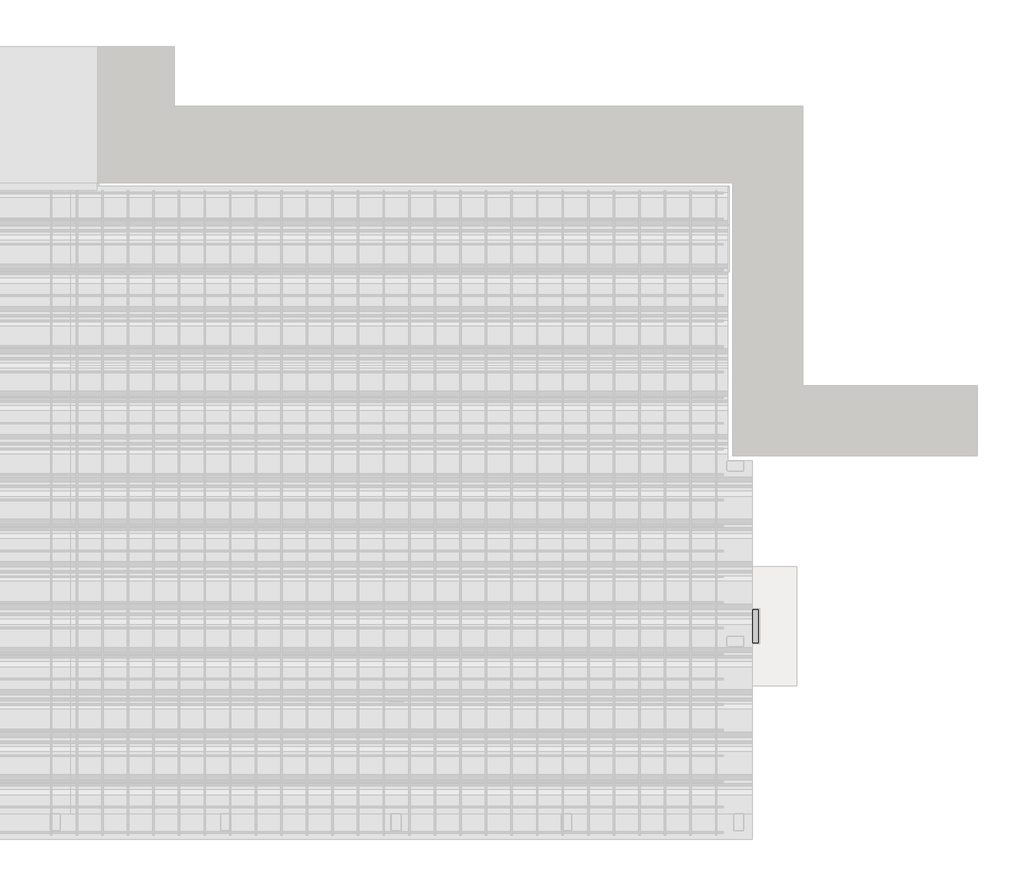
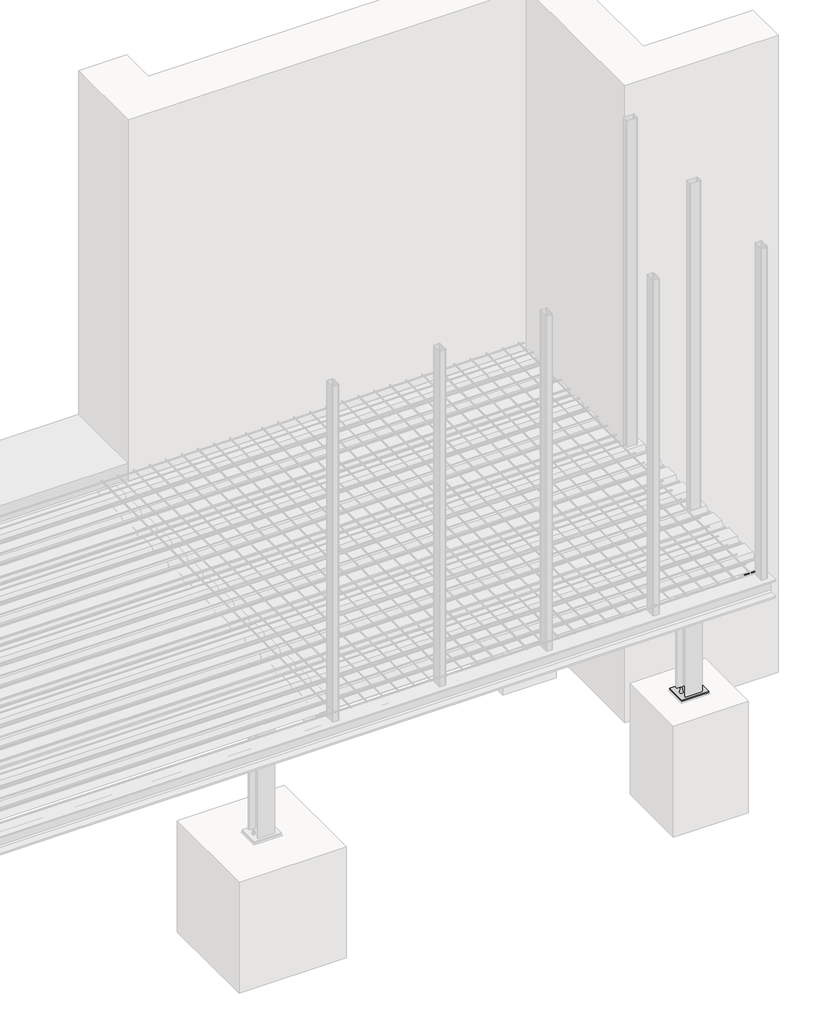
# One storey, part 18 of 36: 15 proxies.
"""IFC4 building model written with IfcOpenShell, lengths in millimetres."""

from ifc_helpers import new_model, si_unit, point, frame, frame_2d, origin, place, context, project, spatial, polyline, circle_curve, trimmed, segment, composite_curve, outline, extrude, transform, mapped, element, save
from components import bolt_assembly_dc997c6e

model = new_model("IFC4")

# Units and contexts
model_context = context("Model", 3, world=origin())
ifc_project = project(units=[si_unit("LENGTHUNIT", "METRE", prefix="MILLI")], contexts=[model_context])

# Site, building, storey
site = spatial("IfcSite", under=ifc_project)
building = spatial("IfcBuilding", under=site)
storey = spatial("IfcBuildingStorey", under=building, Name="Základy", Elevation=-1200.0)

# Proxies
placement = place(None, origin())
element("IfcBuildingElementProxy", 1, Name="PLECH", ObjectType="PLECH", at=placement, inside=storey, context=model_context, shape_type="SweptSolid", body=[
    extrude(outline(polyline([(16175.0, 1356.0), (16175.0, 1164.0), (15925.0, 1164.0), (15925.0, 1356.0), (16175.0, 1356.0)])), frame((0.0, 0.0, -1990.0), z_axis=(0.0, 0.0, 1.0), x_axis=(1.0, 0.0, 0.0)), (0.0, 0.0, 1.0), 15.0),
])
element("IfcBuildingElementProxy", 2, Name="PLECH", ObjectType="PLECH", at=placement, inside=storey, context=model_context, shape_type="SweptSolid", body=[
    extrude(outline(polyline([(15805.0, 3765.0), (15805.0, 3835.0), (15815.0, 3835.0), (15815.0, 3765.0), (15805.0, 3765.0)])), frame((0.0, 0.0, -330.0), z_axis=(0.0, 0.0, 1.0), x_axis=(1.0, 0.0, 0.0)), (0.0, 0.0, 1.0), 160.0),
])
element("IfcBuildingElementProxy", 3, Name="PLECH", ObjectType="PLECH", at=placement, inside=storey, context=model_context, shape_type="SweptSolid", body=[
    extrude(outline(composite_curve([segment(polyline([(-174.0, 15815.0), (-326.0, 15815.0), (-326.0, 15875.5)]), True, "CONTINUOUS"), segment(trimmed(circle_curve(frame_2d((-326.0, 15900.5)), 25.0), [point((-326.0, 15875.5))], [point((-301.0, 15900.5))], True, "CARTESIAN"), True, "CONTINUOUS"), segment(polyline([(-301.0, 15900.5), (-199.0, 15900.5)]), True, "CONTINUOUS"), segment(trimmed(circle_curve(frame_2d((-174.0, 15900.5)), 25.0), [point((-199.0, 15900.5))], [point((-174.0, 15875.5))], True, "CARTESIAN"), True, "CONTINUOUS"), segment(polyline([(-174.0, 15875.5), (-174.0, 15815.0)]), True, "CONTINUOUS")], self_intersect=False)), frame((0.0, 3795.75, 0.0), z_axis=(0.0, 1.0, 0.0), x_axis=(0.0, 0.0, 1.0)), (0.0, 0.0, 1.0), 8.0),
])
element("IfcBuildingElementProxy", 4, Name="PLECH", ObjectType="PLECH", at=placement, inside=storey, context=model_context, shape_type="SweptSolid", body=[
    extrude(outline(polyline([(15995.0, 3810.0), (15995.0, 3690.0), (15815.0, 3690.0), (15815.0, 3810.0), (15995.0, 3810.0)])), frame((0.0, 0.0, -350.0), z_axis=(0.0, 0.0, 1.0), x_axis=(1.0, 0.0, 0.0)), (0.0, 0.0, 1.0), 10.0),
])
element("IfcBuildingElementProxy", 5, Name="PLECH", ObjectType="PLECH", at=placement, inside=storey, context=model_context, shape_type="SweptSolid", body=[
    extrude(outline(polyline([(15995.0, 3830.0), (15995.0, 3620.0), (15775.0, 3620.0), (15775.0, 3830.0), (15995.0, 3830.0)])), frame((0.0, 0.0, -1990.0), z_axis=(0.0, 0.0, 1.0), x_axis=(1.0, 0.0, 0.0)), (0.0, 0.0, 1.0), 15.0),
])
element("IfcBuildingElementProxy", 6, Name="PLECH", ObjectType="PLECH", at=placement, inside=storey, context=model_context, shape_type="SweptSolid", body=[
    extrude(outline(polyline([(15797.0, 3765.0), (15797.0, 3835.0), (15805.0, 3835.0), (15805.0, 3765.0), (15797.0, 3765.0)])), frame((0.0, 0.0, -330.0), z_axis=(0.0, 0.0, 1.0), x_axis=(1.0, 0.0, 0.0)), (0.0, 0.0, 1.0), 160.0),
])
element("IfcBuildingElementProxy", 7, Name="PLECH", ObjectType="PLECH", at=placement, inside=storey, context=model_context, shape_type="SweptSolid", body=[
    extrude(outline(polyline([(15960.0, 210.0), (16140.0, 210.0), (16140.0, 200.0), (15960.0, 200.0), (15960.0, 210.0)])), frame((0.0, 0.0, -332.0), z_axis=(0.0, 0.0, 1.0), x_axis=(1.0, 0.0, 0.0)), (0.0, 0.0, 1.0), 164.0),
])
element("IfcBuildingElementProxy", 8, Name="PLECH", ObjectType="PLECH", at=placement, inside=storey, context=model_context, shape_type="SweptSolid", body=[
    extrude(outline(composite_curve([segment(polyline([(190.0, -174.0), (190.0, -326.0), (124.25, -326.0)]), True, "CONTINUOUS"), segment(trimmed(circle_curve(frame_2d((104.25, -326.0)), 20.0), [point((124.25, -326.0))], [point((104.25, -306.0))], True, "CARTESIAN"), True, "CONTINUOUS"), segment(polyline([(104.25, -306.0), (104.25, -194.0)]), True, "CONTINUOUS"), segment(trimmed(circle_curve(frame_2d((104.25, -174.0)), 20.0), [point((104.25, -194.0))], [point((124.25, -174.0))], True, "CARTESIAN"), True, "CONTINUOUS"), segment(polyline([(124.25, -174.0), (190.0, -174.0)]), True, "CONTINUOUS")], self_intersect=False)), frame((16046.0, 0.0, 0.0), z_axis=(1.0, 0.0, 0.0), x_axis=(0.0, 1.0, 0.0)), (0.0, 0.0, 1.0), 8.0),
])
element("IfcBuildingElementProxy", 9, Name="PLECH", ObjectType="PLECH", at=placement, inside=storey, context=model_context, shape_type="SweptSolid", body=[
    extrude(outline(polyline([(15960.0, 200.0), (16140.0, 200.0), (16140.0, 190.0), (15960.0, 190.0), (15960.0, 200.0)])), frame((0.0, 0.0, -332.0), z_axis=(0.0, 0.0, 1.0), x_axis=(1.0, 0.0, 0.0)), (0.0, 0.0, 1.0), 164.0),
])
element("IfcBuildingElementProxy", 10, Name="Bolt assembly", ObjectType="Bolt assembly", at=placement, inside=storey, context=model_context, shape_type="SweptSolid", body=[
    extrude(outline(composite_curve([segment(trimmed(circle_curve(frame_2d((3800.0, -200.0)), 9.0), [point((3800.0, -209.0))], [point((3800.0, -191.0))], False, "CARTESIAN"), True, "CONTINUOUS"), segment(trimmed(circle_curve(frame_2d((3800.0, -200.0)), 9.0), [point((3800.0, -191.0))], [point((3800.0, -209.0))], False, "CARTESIAN"), True, "CONTINUOUS")], self_intersect=False)), frame((15804.9, 0.0, 0.0), z_axis=(1.0, 0.0, 0.0), x_axis=(0.0, 1.0, 0.0)), (0.0, 0.0, 1.0), 10.1),
    extrude(outline(polyline([(3800.0, -213.8564065), (3788.0, -206.9282032), (3788.0, -193.0717968), (3800.0, -186.1435935), (3812.0, -193.0717968), (3812.0, -206.9282032), (3800.0, -213.8564065)])), frame((15784.0, 0.0, 0.0), z_axis=(1.0, 0.0, 0.0), x_axis=(0.0, 1.0, 0.0)), (0.0, 0.0, 1.0), 10.0),
    extrude(outline(composite_curve([segment(trimmed(circle_curve(frame_2d((3800.0, -200.0)), 8.0), [point((3800.0, -208.0))], [point((3800.0, -192.0))], False, "CARTESIAN"), True, "CONTINUOUS"), segment(trimmed(circle_curve(frame_2d((3800.0, -200.0)), 8.0), [point((3800.0, -192.0))], [point((3800.0, -208.0))], False, "CARTESIAN"), True, "CONTINUOUS")], self_intersect=False)), frame((15794.0, 0.0, 0.0), z_axis=(1.0, 0.0, 0.0), x_axis=(0.0, 1.0, 0.0)), (0.0, 0.0, 1.0), 50.0),
    extrude(outline(composite_curve([segment(trimmed(circle_curve(frame_2d((3800.0, -200.0)), 15.0), [point((3800.0, -215.0))], [point((3800.0, -185.0))], False, "CARTESIAN"), True, "CONTINUOUS"), segment(trimmed(circle_curve(frame_2d((3800.0, -200.0)), 15.0), [point((3800.0, -185.0))], [point((3800.0, -215.0))], False, "CARTESIAN"), True, "CONTINUOUS")], self_intersect=False)), frame((15794.0, 0.0, 0.0), z_axis=(1.0, 0.0, 0.0), x_axis=(0.0, 1.0, 0.0)), (0.0, 0.0, 1.0), 3.0),
    extrude(outline(composite_curve([segment(trimmed(circle_curve(frame_2d((3800.0, -200.0)), 15.0), [point((3800.0, -215.0))], [point((3800.0, -185.0))], False, "CARTESIAN"), True, "CONTINUOUS"), segment(trimmed(circle_curve(frame_2d((3800.0, -200.0)), 15.0), [point((3800.0, -185.0))], [point((3800.0, -215.0))], False, "CARTESIAN"), True, "CONTINUOUS")], self_intersect=False)), frame((15815.0, 0.0, 0.0), z_axis=(1.0, 0.0, 0.0), x_axis=(0.0, 1.0, 0.0)), (0.0, 0.0, 1.0), 3.0),
    extrude(outline(polyline([(3800.0, -215.4441197), (3786.625, -207.7220599), (3786.625, -192.2779401), (3800.0, -184.5558803), (3813.375, -192.2779401), (3813.375, -207.7220599), (3800.0, -215.4441197)])), frame((15818.0, 0.0, 0.0), z_axis=(1.0, 0.0, 0.0), x_axis=(0.0, 1.0, 0.0)), (0.0, 0.0, 1.0), 13.0),
    extrude(outline(composite_curve([segment(trimmed(circle_curve(frame_2d((3800.0, -200.0)), 9.0), [point((3800.0, -209.0))], [point((3800.0, -191.0))], False, "CARTESIAN"), True, "CONTINUOUS"), segment(trimmed(circle_curve(frame_2d((3800.0, -200.0)), 9.0), [point((3800.0, -191.0))], [point((3800.0, -209.0))], False, "CARTESIAN"), True, "CONTINUOUS")], self_intersect=False)), frame((15797.1, 0.0, 0.0), z_axis=(1.0, 0.0, 0.0), x_axis=(0.0, 1.0, 0.0)), (0.0, 0.0, 1.0), 8.0),
    extrude(outline(composite_curve([segment(trimmed(circle_curve(frame_2d((3800.0, -300.0)), 9.0), [point((3800.0, -309.0))], [point((3800.0, -291.0))], False, "CARTESIAN"), True, "CONTINUOUS"), segment(trimmed(circle_curve(frame_2d((3800.0, -300.0)), 9.0), [point((3800.0, -291.0))], [point((3800.0, -309.0))], False, "CARTESIAN"), True, "CONTINUOUS")], self_intersect=False)), frame((15804.9, 0.0, 0.0), z_axis=(1.0, 0.0, 0.0), x_axis=(0.0, 1.0, 0.0)), (0.0, 0.0, 1.0), 10.1),
    extrude(outline(polyline([(3800.0, -313.8564065), (3788.0, -306.9282032), (3788.0, -293.0717968), (3800.0, -286.1435935), (3812.0, -293.0717968), (3812.0, -306.9282032), (3800.0, -313.8564065)])), frame((15784.0, 0.0, 0.0), z_axis=(1.0, 0.0, 0.0), x_axis=(0.0, 1.0, 0.0)), (0.0, 0.0, 1.0), 10.0),
    extrude(outline(composite_curve([segment(trimmed(circle_curve(frame_2d((3800.0, -300.0)), 8.0), [point((3800.0, -308.0))], [point((3800.0, -292.0))], False, "CARTESIAN"), True, "CONTINUOUS"), segment(trimmed(circle_curve(frame_2d((3800.0, -300.0)), 8.0), [point((3800.0, -292.0))], [point((3800.0, -308.0))], False, "CARTESIAN"), True, "CONTINUOUS")], self_intersect=False)), frame((15794.0, 0.0, 0.0), z_axis=(1.0, 0.0, 0.0), x_axis=(0.0, 1.0, 0.0)), (0.0, 0.0, 1.0), 50.0),
    extrude(outline(composite_curve([segment(trimmed(circle_curve(frame_2d((3800.0, -300.0)), 15.0), [point((3800.0, -315.0))], [point((3800.0, -285.0))], False, "CARTESIAN"), True, "CONTINUOUS"), segment(trimmed(circle_curve(frame_2d((3800.0, -300.0)), 15.0), [point((3800.0, -285.0))], [point((3800.0, -315.0))], False, "CARTESIAN"), True, "CONTINUOUS")], self_intersect=False)), frame((15794.0, 0.0, 0.0), z_axis=(1.0, 0.0, 0.0), x_axis=(0.0, 1.0, 0.0)), (0.0, 0.0, 1.0), 3.0),
    extrude(outline(composite_curve([segment(trimmed(circle_curve(frame_2d((3800.0, -300.0)), 15.0), [point((3800.0, -315.0))], [point((3800.0, -285.0))], False, "CARTESIAN"), True, "CONTINUOUS"), segment(trimmed(circle_curve(frame_2d((3800.0, -300.0)), 15.0), [point((3800.0, -285.0))], [point((3800.0, -315.0))], False, "CARTESIAN"), True, "CONTINUOUS")], self_intersect=False)), frame((15815.0, 0.0, 0.0), z_axis=(1.0, 0.0, 0.0), x_axis=(0.0, 1.0, 0.0)), (0.0, 0.0, 1.0), 3.0),
    extrude(outline(polyline([(3800.0, -315.4441197), (3786.625, -307.7220599), (3786.625, -292.2779401), (3800.0, -284.5558803), (3813.375, -292.2779401), (3813.375, -307.7220599), (3800.0, -315.4441197)])), frame((15818.0, 0.0, 0.0), z_axis=(1.0, 0.0, 0.0), x_axis=(0.0, 1.0, 0.0)), (0.0, 0.0, 1.0), 13.0),
    extrude(outline(composite_curve([segment(trimmed(circle_curve(frame_2d((3800.0, -300.0)), 9.0), [point((3800.0, -309.0))], [point((3800.0, -291.0))], False, "CARTESIAN"), True, "CONTINUOUS"), segment(trimmed(circle_curve(frame_2d((3800.0, -300.0)), 9.0), [point((3800.0, -291.0))], [point((3800.0, -309.0))], False, "CARTESIAN"), True, "CONTINUOUS")], self_intersect=False)), frame((15797.1, 0.0, 0.0), z_axis=(1.0, 0.0, 0.0), x_axis=(0.0, 1.0, 0.0)), (0.0, 0.0, 1.0), 8.0),
])
element("IfcBuildingElementProxy", 11, Name="Bolt assembly", ObjectType="Bolt assembly", at=placement, inside=storey, context=model_context, shape_type="SweptSolid", body=[
    extrude(outline(composite_curve([segment(trimmed(circle_curve(frame_2d((15835.0, 3750.0)), 6.5), [point((15841.5, 3750.0))], [point((15828.5, 3750.0))], False, "CARTESIAN"), True, "CONTINUOUS"), segment(trimmed(circle_curve(frame_2d((15835.0, 3750.0)), 6.5), [point((15828.5, 3750.0))], [point((15841.5, 3750.0))], False, "CARTESIAN"), True, "CONTINUOUS")], self_intersect=False)), frame((0.0, 0.0, -350.0), z_axis=(0.0, 0.0, 1.0), x_axis=(1.0, 0.0, 0.0)), (0.0, 0.0, 1.0), 10.1),
    extrude(outline(polyline([(15845.3923048, 3750.0), (15840.1961524, 3741.0), (15829.8038476, 3741.0), (15824.6076952, 3750.0), (15829.8038476, 3759.0), (15840.1961524, 3759.0), (15845.3923048, 3750.0)])), frame((0.0, 0.0, -323.5), z_axis=(0.0, 0.0, 1.0), x_axis=(1.0, 0.0, 0.0)), (0.0, 0.0, 1.0), 7.5),
    extrude(outline(composite_curve([segment(trimmed(circle_curve(frame_2d((15835.0, 3750.0)), 6.0), [point((15841.0, 3750.0))], [point((15829.0, 3750.0))], False, "CARTESIAN"), True, "CONTINUOUS"), segment(trimmed(circle_curve(frame_2d((15835.0, 3750.0)), 6.0), [point((15829.0, 3750.0))], [point((15841.0, 3750.0))], False, "CARTESIAN"), True, "CONTINUOUS")], self_intersect=False)), frame((0.0, 0.0, -368.5), z_axis=(0.0, 0.0, 1.0), x_axis=(1.0, 0.0, 0.0)), (0.0, 0.0, 1.0), 45.0),
    extrude(outline(composite_curve([segment(trimmed(circle_curve(frame_2d((15835.0, 3750.0)), 12.0), [point((15847.0, 3750.0))], [point((15823.0, 3750.0))], False, "CARTESIAN"), True, "CONTINUOUS"), segment(trimmed(circle_curve(frame_2d((15835.0, 3750.0)), 12.0), [point((15823.0, 3750.0))], [point((15847.0, 3750.0))], False, "CARTESIAN"), True, "CONTINUOUS")], self_intersect=False)), frame((0.0, 0.0, -326.0), z_axis=(0.0, 0.0, 1.0), x_axis=(1.0, 0.0, 0.0)), (0.0, 0.0, 1.0), 2.5),
    extrude(outline(composite_curve([segment(trimmed(circle_curve(frame_2d((15835.0, 3750.0)), 12.0), [point((15847.0, 3750.0))], [point((15823.0, 3750.0))], False, "CARTESIAN"), True, "CONTINUOUS"), segment(trimmed(circle_curve(frame_2d((15835.0, 3750.0)), 12.0), [point((15823.0, 3750.0))], [point((15847.0, 3750.0))], False, "CARTESIAN"), True, "CONTINUOUS")], self_intersect=False)), frame((0.0, 0.0, -352.5), z_axis=(0.0, 0.0, 1.0), x_axis=(1.0, 0.0, 0.0)), (0.0, 0.0, 1.0), 2.5),
    extrude(outline(polyline([(15845.9696551, 3750.0), (15840.4848276, 3740.5), (15829.5151724, 3740.5), (15824.0303449, 3750.0), (15829.5151724, 3759.5), (15840.4848276, 3759.5), (15845.9696551, 3750.0)])), frame((0.0, 0.0, -362.5), z_axis=(0.0, 0.0, 1.0), x_axis=(1.0, 0.0, 0.0)), (0.0, 0.0, 1.0), 10.0),
    extrude(outline(composite_curve([segment(trimmed(circle_curve(frame_2d((15835.0, 3750.0)), 6.5), [point((15841.5, 3750.0))], [point((15828.5, 3750.0))], False, "CARTESIAN"), True, "CONTINUOUS"), segment(trimmed(circle_curve(frame_2d((15835.0, 3750.0)), 6.5), [point((15828.5, 3750.0))], [point((15841.5, 3750.0))], False, "CARTESIAN"), True, "CONTINUOUS")], self_intersect=False)), frame((0.0, 0.0, -340.1), z_axis=(0.0, 0.0, 1.0), x_axis=(1.0, 0.0, 0.0)), (0.0, 0.0, 1.0), 14.0),
    extrude(outline(composite_curve([segment(trimmed(circle_curve(frame_2d((15975.0, 3750.0)), 6.5), [point((15981.5, 3750.0))], [point((15968.5, 3750.0))], False, "CARTESIAN"), True, "CONTINUOUS"), segment(trimmed(circle_curve(frame_2d((15975.0, 3750.0)), 6.5), [point((15968.5, 3750.0))], [point((15981.5, 3750.0))], False, "CARTESIAN"), True, "CONTINUOUS")], self_intersect=False)), frame((0.0, 0.0, -350.0), z_axis=(0.0, 0.0, 1.0), x_axis=(1.0, 0.0, 0.0)), (0.0, 0.0, 1.0), 10.1),
    extrude(outline(polyline([(15985.3923048, 3750.0), (15980.1961524, 3741.0), (15969.8038476, 3741.0), (15964.6076952, 3750.0), (15969.8038476, 3759.0), (15980.1961524, 3759.0), (15985.3923048, 3750.0)])), frame((0.0, 0.0, -323.5), z_axis=(0.0, 0.0, 1.0), x_axis=(1.0, 0.0, 0.0)), (0.0, 0.0, 1.0), 7.5),
    extrude(outline(composite_curve([segment(trimmed(circle_curve(frame_2d((15975.0, 3750.0)), 6.0), [point((15981.0, 3750.0))], [point((15969.0, 3750.0))], False, "CARTESIAN"), True, "CONTINUOUS"), segment(trimmed(circle_curve(frame_2d((15975.0, 3750.0)), 6.0), [point((15969.0, 3750.0))], [point((15981.0, 3750.0))], False, "CARTESIAN"), True, "CONTINUOUS")], self_intersect=False)), frame((0.0, 0.0, -368.5), z_axis=(0.0, 0.0, 1.0), x_axis=(1.0, 0.0, 0.0)), (0.0, 0.0, 1.0), 45.0),
    extrude(outline(composite_curve([segment(trimmed(circle_curve(frame_2d((15975.0, 3750.0)), 12.0), [point((15987.0, 3750.0))], [point((15963.0, 3750.0))], False, "CARTESIAN"), True, "CONTINUOUS"), segment(trimmed(circle_curve(frame_2d((15975.0, 3750.0)), 12.0), [point((15963.0, 3750.0))], [point((15987.0, 3750.0))], False, "CARTESIAN"), True, "CONTINUOUS")], self_intersect=False)), frame((0.0, 0.0, -326.0), z_axis=(0.0, 0.0, 1.0), x_axis=(1.0, 0.0, 0.0)), (0.0, 0.0, 1.0), 2.5),
    extrude(outline(composite_curve([segment(trimmed(circle_curve(frame_2d((15975.0, 3750.0)), 12.0), [point((15987.0, 3750.0))], [point((15963.0, 3750.0))], False, "CARTESIAN"), True, "CONTINUOUS"), segment(trimmed(circle_curve(frame_2d((15975.0, 3750.0)), 12.0), [point((15963.0, 3750.0))], [point((15987.0, 3750.0))], False, "CARTESIAN"), True, "CONTINUOUS")], self_intersect=False)), frame((0.0, 0.0, -352.5), z_axis=(0.0, 0.0, 1.0), x_axis=(1.0, 0.0, 0.0)), (0.0, 0.0, 1.0), 2.5),
    extrude(outline(polyline([(15985.9696551, 3750.0), (15980.4848276, 3740.5), (15969.5151724, 3740.5), (15964.0303449, 3750.0), (15969.5151724, 3759.5), (15980.4848276, 3759.5), (15985.9696551, 3750.0)])), frame((0.0, 0.0, -362.5), z_axis=(0.0, 0.0, 1.0), x_axis=(1.0, 0.0, 0.0)), (0.0, 0.0, 1.0), 10.0),
    extrude(outline(composite_curve([segment(trimmed(circle_curve(frame_2d((15975.0, 3750.0)), 6.5), [point((15981.5, 3750.0))], [point((15968.5, 3750.0))], False, "CARTESIAN"), True, "CONTINUOUS"), segment(trimmed(circle_curve(frame_2d((15975.0, 3750.0)), 6.5), [point((15968.5, 3750.0))], [point((15981.5, 3750.0))], False, "CARTESIAN"), True, "CONTINUOUS")], self_intersect=False)), frame((0.0, 0.0, -340.1), z_axis=(0.0, 0.0, 1.0), x_axis=(1.0, 0.0, 0.0)), (0.0, 0.0, 1.0), 14.0),
])
element("IfcBuildingElementProxy", 12, Name="Bolt assembly", ObjectType="Bolt assembly", at=placement, inside=storey, context=model_context, shape_type="SweptSolid", body=[
    extrude(outline(composite_curve([segment(trimmed(circle_curve(frame_2d((-290.0, 16005.0)), 9.0), [point((-290.0, 16014.0))], [point((-290.0, 15996.0))], False, "CARTESIAN"), True, "CONTINUOUS"), segment(trimmed(circle_curve(frame_2d((-290.0, 16005.0)), 9.0), [point((-290.0, 15996.0))], [point((-290.0, 16014.0))], False, "CARTESIAN"), True, "CONTINUOUS")], self_intersect=False)), frame((0.0, 190.1, 0.0), z_axis=(0.0, 1.0, 0.0), x_axis=(0.0, 0.0, 1.0)), (0.0, 0.0, 1.0), 10.0),
    extrude(outline(polyline([(-290.0, 16018.8564065), (-278.0, 16011.9282032), (-278.0, 15998.0717968), (-290.0, 15991.1435935), (-302.0, 15998.0717968), (-302.0, 16011.9282032), (-290.0, 16018.8564065)])), frame((0.0, 177.0, 0.0), z_axis=(0.0, 1.0, 0.0), x_axis=(0.0, 0.0, 1.0)), (0.0, 0.0, 1.0), 10.0),
    extrude(outline(composite_curve([segment(trimmed(circle_curve(frame_2d((-290.0, 16005.0)), 8.0), [point((-290.0, 16013.0))], [point((-290.0, 15997.0))], False, "CARTESIAN"), True, "CONTINUOUS"), segment(trimmed(circle_curve(frame_2d((-290.0, 16005.0)), 8.0), [point((-290.0, 15997.0))], [point((-290.0, 16013.0))], False, "CARTESIAN"), True, "CONTINUOUS")], self_intersect=False)), frame((0.0, 187.0, 0.0), z_axis=(0.0, 1.0, 0.0), x_axis=(0.0, 0.0, 1.0)), (0.0, 0.0, 1.0), 50.0),
    extrude(outline(composite_curve([segment(trimmed(circle_curve(frame_2d((-290.0, 16005.0)), 15.0), [point((-290.0, 16020.0))], [point((-290.0, 15990.0))], False, "CARTESIAN"), True, "CONTINUOUS"), segment(trimmed(circle_curve(frame_2d((-290.0, 16005.0)), 15.0), [point((-290.0, 15990.0))], [point((-290.0, 16020.0))], False, "CARTESIAN"), True, "CONTINUOUS")], self_intersect=False)), frame((0.0, 187.0, 0.0), z_axis=(0.0, 1.0, 0.0), x_axis=(0.0, 0.0, 1.0)), (0.0, 0.0, 1.0), 3.0),
    extrude(outline(composite_curve([segment(trimmed(circle_curve(frame_2d((-290.0, 16005.0)), 15.0), [point((-290.0, 16020.0))], [point((-290.0, 15990.0))], False, "CARTESIAN"), True, "CONTINUOUS"), segment(trimmed(circle_curve(frame_2d((-290.0, 16005.0)), 15.0), [point((-290.0, 15990.0))], [point((-290.0, 16020.0))], False, "CARTESIAN"), True, "CONTINUOUS")], self_intersect=False)), frame((0.0, 210.0, 0.0), z_axis=(0.0, 1.0, 0.0), x_axis=(0.0, 0.0, 1.0)), (0.0, 0.0, 1.0), 3.0),
    extrude(outline(polyline([(-290.0, 16020.4441197), (-276.625, 16012.7220599), (-276.625, 15997.2779401), (-290.0, 15989.5558803), (-303.375, 15997.2779401), (-303.375, 16012.7220599), (-290.0, 16020.4441197)])), frame((0.0, 213.0, 0.0), z_axis=(0.0, 1.0, 0.0), x_axis=(0.0, 0.0, 1.0)), (0.0, 0.0, 1.0), 13.0),
    extrude(outline(composite_curve([segment(trimmed(circle_curve(frame_2d((-290.0, 16005.0)), 9.0), [point((-290.0, 16014.0))], [point((-290.0, 15996.0))], False, "CARTESIAN"), True, "CONTINUOUS"), segment(trimmed(circle_curve(frame_2d((-290.0, 16005.0)), 9.0), [point((-290.0, 15996.0))], [point((-290.0, 16014.0))], False, "CARTESIAN"), True, "CONTINUOUS")], self_intersect=False)), frame((0.0, 199.9, 0.0), z_axis=(0.0, 1.0, 0.0), x_axis=(0.0, 0.0, 1.0)), (0.0, 0.0, 1.0), 10.1),
    extrude(outline(composite_curve([segment(trimmed(circle_curve(frame_2d((-290.0, 16095.0)), 9.0), [point((-290.0, 16104.0))], [point((-290.0, 16086.0))], False, "CARTESIAN"), True, "CONTINUOUS"), segment(trimmed(circle_curve(frame_2d((-290.0, 16095.0)), 9.0), [point((-290.0, 16086.0))], [point((-290.0, 16104.0))], False, "CARTESIAN"), True, "CONTINUOUS")], self_intersect=False)), frame((0.0, 190.1, 0.0), z_axis=(0.0, 1.0, 0.0), x_axis=(0.0, 0.0, 1.0)), (0.0, 0.0, 1.0), 10.0),
    extrude(outline(polyline([(-290.0, 16108.8564065), (-278.0, 16101.9282032), (-278.0, 16088.0717968), (-290.0, 16081.1435935), (-302.0, 16088.0717968), (-302.0, 16101.9282032), (-290.0, 16108.8564065)])), frame((0.0, 177.0, 0.0), z_axis=(0.0, 1.0, 0.0), x_axis=(0.0, 0.0, 1.0)), (0.0, 0.0, 1.0), 10.0),
    extrude(outline(composite_curve([segment(trimmed(circle_curve(frame_2d((-290.0, 16095.0)), 8.0), [point((-290.0, 16103.0))], [point((-290.0, 16087.0))], False, "CARTESIAN"), True, "CONTINUOUS"), segment(trimmed(circle_curve(frame_2d((-290.0, 16095.0)), 8.0), [point((-290.0, 16087.0))], [point((-290.0, 16103.0))], False, "CARTESIAN"), True, "CONTINUOUS")], self_intersect=False)), frame((0.0, 187.0, 0.0), z_axis=(0.0, 1.0, 0.0), x_axis=(0.0, 0.0, 1.0)), (0.0, 0.0, 1.0), 50.0),
    extrude(outline(composite_curve([segment(trimmed(circle_curve(frame_2d((-290.0, 16095.0)), 15.0), [point((-290.0, 16110.0))], [point((-290.0, 16080.0))], False, "CARTESIAN"), True, "CONTINUOUS"), segment(trimmed(circle_curve(frame_2d((-290.0, 16095.0)), 15.0), [point((-290.0, 16080.0))], [point((-290.0, 16110.0))], False, "CARTESIAN"), True, "CONTINUOUS")], self_intersect=False)), frame((0.0, 187.0, 0.0), z_axis=(0.0, 1.0, 0.0), x_axis=(0.0, 0.0, 1.0)), (0.0, 0.0, 1.0), 3.0),
    extrude(outline(composite_curve([segment(trimmed(circle_curve(frame_2d((-290.0, 16095.0)), 15.0), [point((-290.0, 16110.0))], [point((-290.0, 16080.0))], False, "CARTESIAN"), True, "CONTINUOUS"), segment(trimmed(circle_curve(frame_2d((-290.0, 16095.0)), 15.0), [point((-290.0, 16080.0))], [point((-290.0, 16110.0))], False, "CARTESIAN"), True, "CONTINUOUS")], self_intersect=False)), frame((0.0, 210.0, 0.0), z_axis=(0.0, 1.0, 0.0), x_axis=(0.0, 0.0, 1.0)), (0.0, 0.0, 1.0), 3.0),
    extrude(outline(polyline([(-290.0, 16110.4441197), (-276.625, 16102.7220599), (-276.625, 16087.2779401), (-290.0, 16079.5558803), (-303.375, 16087.2779401), (-303.375, 16102.7220599), (-290.0, 16110.4441197)])), frame((0.0, 213.0, 0.0), z_axis=(0.0, 1.0, 0.0), x_axis=(0.0, 0.0, 1.0)), (0.0, 0.0, 1.0), 13.0),
    extrude(outline(composite_curve([segment(trimmed(circle_curve(frame_2d((-290.0, 16095.0)), 9.0), [point((-290.0, 16104.0))], [point((-290.0, 16086.0))], False, "CARTESIAN"), True, "CONTINUOUS"), segment(trimmed(circle_curve(frame_2d((-290.0, 16095.0)), 9.0), [point((-290.0, 16086.0))], [point((-290.0, 16104.0))], False, "CARTESIAN"), True, "CONTINUOUS")], self_intersect=False)), frame((0.0, 199.9, 0.0), z_axis=(0.0, 1.0, 0.0), x_axis=(0.0, 0.0, 1.0)), (0.0, 0.0, 1.0), 10.1),
    extrude(outline(composite_curve([segment(trimmed(circle_curve(frame_2d((-210.0, 16005.0)), 9.0), [point((-210.0, 16014.0))], [point((-210.0, 15996.0))], False, "CARTESIAN"), True, "CONTINUOUS"), segment(trimmed(circle_curve(frame_2d((-210.0, 16005.0)), 9.0), [point((-210.0, 15996.0))], [point((-210.0, 16014.0))], False, "CARTESIAN"), True, "CONTINUOUS")], self_intersect=False)), frame((0.0, 190.1, 0.0), z_axis=(0.0, 1.0, 0.0), x_axis=(0.0, 0.0, 1.0)), (0.0, 0.0, 1.0), 10.0),
    extrude(outline(polyline([(-210.0, 16018.8564065), (-198.0, 16011.9282032), (-198.0, 15998.0717968), (-210.0, 15991.1435935), (-222.0, 15998.0717968), (-222.0, 16011.9282032), (-210.0, 16018.8564065)])), frame((0.0, 177.0, 0.0), z_axis=(0.0, 1.0, 0.0), x_axis=(0.0, 0.0, 1.0)), (0.0, 0.0, 1.0), 10.0),
    extrude(outline(composite_curve([segment(trimmed(circle_curve(frame_2d((-210.0, 16005.0)), 8.0), [point((-210.0, 16013.0))], [point((-210.0, 15997.0))], False, "CARTESIAN"), True, "CONTINUOUS"), segment(trimmed(circle_curve(frame_2d((-210.0, 16005.0)), 8.0), [point((-210.0, 15997.0))], [point((-210.0, 16013.0))], False, "CARTESIAN"), True, "CONTINUOUS")], self_intersect=False)), frame((0.0, 187.0, 0.0), z_axis=(0.0, 1.0, 0.0), x_axis=(0.0, 0.0, 1.0)), (0.0, 0.0, 1.0), 50.0),
    extrude(outline(composite_curve([segment(trimmed(circle_curve(frame_2d((-210.0, 16005.0)), 15.0), [point((-210.0, 16020.0))], [point((-210.0, 15990.0))], False, "CARTESIAN"), True, "CONTINUOUS"), segment(trimmed(circle_curve(frame_2d((-210.0, 16005.0)), 15.0), [point((-210.0, 15990.0))], [point((-210.0, 16020.0))], False, "CARTESIAN"), True, "CONTINUOUS")], self_intersect=False)), frame((0.0, 187.0, 0.0), z_axis=(0.0, 1.0, 0.0), x_axis=(0.0, 0.0, 1.0)), (0.0, 0.0, 1.0), 3.0),
    extrude(outline(composite_curve([segment(trimmed(circle_curve(frame_2d((-210.0, 16005.0)), 15.0), [point((-210.0, 16020.0))], [point((-210.0, 15990.0))], False, "CARTESIAN"), True, "CONTINUOUS"), segment(trimmed(circle_curve(frame_2d((-210.0, 16005.0)), 15.0), [point((-210.0, 15990.0))], [point((-210.0, 16020.0))], False, "CARTESIAN"), True, "CONTINUOUS")], self_intersect=False)), frame((0.0, 210.0, 0.0), z_axis=(0.0, 1.0, 0.0), x_axis=(0.0, 0.0, 1.0)), (0.0, 0.0, 1.0), 3.0),
    extrude(outline(polyline([(-210.0, 16020.4441197), (-196.625, 16012.7220599), (-196.625, 15997.2779401), (-210.0, 15989.5558803), (-223.375, 15997.2779401), (-223.375, 16012.7220599), (-210.0, 16020.4441197)])), frame((0.0, 213.0, 0.0), z_axis=(0.0, 1.0, 0.0), x_axis=(0.0, 0.0, 1.0)), (0.0, 0.0, 1.0), 13.0),
    extrude(outline(composite_curve([segment(trimmed(circle_curve(frame_2d((-210.0, 16005.0)), 9.0), [point((-210.0, 16014.0))], [point((-210.0, 15996.0))], False, "CARTESIAN"), True, "CONTINUOUS"), segment(trimmed(circle_curve(frame_2d((-210.0, 16005.0)), 9.0), [point((-210.0, 15996.0))], [point((-210.0, 16014.0))], False, "CARTESIAN"), True, "CONTINUOUS")], self_intersect=False)), frame((0.0, 199.9, 0.0), z_axis=(0.0, 1.0, 0.0), x_axis=(0.0, 0.0, 1.0)), (0.0, 0.0, 1.0), 10.1),
    extrude(outline(composite_curve([segment(trimmed(circle_curve(frame_2d((-210.0, 16095.0)), 9.0), [point((-210.0, 16104.0))], [point((-210.0, 16086.0))], False, "CARTESIAN"), True, "CONTINUOUS"), segment(trimmed(circle_curve(frame_2d((-210.0, 16095.0)), 9.0), [point((-210.0, 16086.0))], [point((-210.0, 16104.0))], False, "CARTESIAN"), True, "CONTINUOUS")], self_intersect=False)), frame((0.0, 190.1, 0.0), z_axis=(0.0, 1.0, 0.0), x_axis=(0.0, 0.0, 1.0)), (0.0, 0.0, 1.0), 10.0),
    extrude(outline(polyline([(-210.0, 16108.8564065), (-198.0, 16101.9282032), (-198.0, 16088.0717968), (-210.0, 16081.1435935), (-222.0, 16088.0717968), (-222.0, 16101.9282032), (-210.0, 16108.8564065)])), frame((0.0, 177.0, 0.0), z_axis=(0.0, 1.0, 0.0), x_axis=(0.0, 0.0, 1.0)), (0.0, 0.0, 1.0), 10.0),
    extrude(outline(composite_curve([segment(trimmed(circle_curve(frame_2d((-210.0, 16095.0)), 8.0), [point((-210.0, 16103.0))], [point((-210.0, 16087.0))], False, "CARTESIAN"), True, "CONTINUOUS"), segment(trimmed(circle_curve(frame_2d((-210.0, 16095.0)), 8.0), [point((-210.0, 16087.0))], [point((-210.0, 16103.0))], False, "CARTESIAN"), True, "CONTINUOUS")], self_intersect=False)), frame((0.0, 187.0, 0.0), z_axis=(0.0, 1.0, 0.0), x_axis=(0.0, 0.0, 1.0)), (0.0, 0.0, 1.0), 50.0),
    extrude(outline(composite_curve([segment(trimmed(circle_curve(frame_2d((-210.0, 16095.0)), 15.0), [point((-210.0, 16110.0))], [point((-210.0, 16080.0))], False, "CARTESIAN"), True, "CONTINUOUS"), segment(trimmed(circle_curve(frame_2d((-210.0, 16095.0)), 15.0), [point((-210.0, 16080.0))], [point((-210.0, 16110.0))], False, "CARTESIAN"), True, "CONTINUOUS")], self_intersect=False)), frame((0.0, 187.0, 0.0), z_axis=(0.0, 1.0, 0.0), x_axis=(0.0, 0.0, 1.0)), (0.0, 0.0, 1.0), 3.0),
    extrude(outline(composite_curve([segment(trimmed(circle_curve(frame_2d((-210.0, 16095.0)), 15.0), [point((-210.0, 16110.0))], [point((-210.0, 16080.0))], False, "CARTESIAN"), True, "CONTINUOUS"), segment(trimmed(circle_curve(frame_2d((-210.0, 16095.0)), 15.0), [point((-210.0, 16080.0))], [point((-210.0, 16110.0))], False, "CARTESIAN"), True, "CONTINUOUS")], self_intersect=False)), frame((0.0, 210.0, 0.0), z_axis=(0.0, 1.0, 0.0), x_axis=(0.0, 0.0, 1.0)), (0.0, 0.0, 1.0), 3.0),
    extrude(outline(polyline([(-210.0, 16110.4441197), (-196.625, 16102.7220599), (-196.625, 16087.2779401), (-210.0, 16079.5558803), (-223.375, 16087.2779401), (-223.375, 16102.7220599), (-210.0, 16110.4441197)])), frame((0.0, 213.0, 0.0), z_axis=(0.0, 1.0, 0.0), x_axis=(0.0, 0.0, 1.0)), (0.0, 0.0, 1.0), 13.0),
    extrude(outline(composite_curve([segment(trimmed(circle_curve(frame_2d((-210.0, 16095.0)), 9.0), [point((-210.0, 16104.0))], [point((-210.0, 16086.0))], False, "CARTESIAN"), True, "CONTINUOUS"), segment(trimmed(circle_curve(frame_2d((-210.0, 16095.0)), 9.0), [point((-210.0, 16086.0))], [point((-210.0, 16104.0))], False, "CARTESIAN"), True, "CONTINUOUS")], self_intersect=False)), frame((0.0, 199.9, 0.0), z_axis=(0.0, 1.0, 0.0), x_axis=(0.0, 0.0, 1.0)), (0.0, 0.0, 1.0), 10.1),
])
bolt_assembly_shape = bolt_assembly_dc997c6e(model_context)
element("IfcBuildingElementProxy", 13, Name="Bolt assembly", ObjectType="Bolt assembly", at=placement, inside=storey, context=model_context, shape_type="MappedRepresentation", body=[
    mapped(bolt_assembly_shape, transform((15815.0, 3750.0, -1975.0), x_axis=(1.0, 0.0, 0.0), y_axis=(0.0, 0.0, 1.0), z_axis=(0.0, -1.0, 0.0))),
])
element("IfcBuildingElementProxy", 14, Name="Bolt assembly", ObjectType="Bolt assembly", at=placement, inside=storey, context=model_context, shape_type="MappedRepresentation", body=[
    mapped(bolt_assembly_shape, transform((15905.0, 3660.0, -1975.0), x_axis=(1.0, 0.0, 0.0), y_axis=(0.0, 0.0, 1.0), z_axis=(0.0, -1.0, 0.0))),
])
element("IfcBuildingElementProxy", 15, Name="Bolt assembly 1", ObjectType="Bolt assembly 1", at=placement, inside=storey, context=model_context, shape_type="SweptSolid", body=[
    extrude(outline(composite_curve([segment(trimmed(circle_curve(frame_2d((-290.0, 14015.0)), 9.0), [point((-290.0, 14024.0))], [point((-290.0, 14006.0))], False, "CARTESIAN"), True, "CONTINUOUS"), segment(trimmed(circle_curve(frame_2d((-290.0, 14015.0)), 9.0), [point((-290.0, 14006.0))], [point((-290.0, 14024.0))], False, "CARTESIAN"), True, "CONTINUOUS")], self_intersect=False)), frame((0.0, 3754.9, 0.0), z_axis=(0.0, 1.0, 0.0), x_axis=(0.0, 0.0, 1.0)), (0.0, 0.0, 1.0), 10.0),
    extrude(outline(polyline([(-290.0, 14028.8564065), (-278.0, 14021.9282032), (-278.0, 14008.0717968), (-290.0, 14001.1435935), (-302.0, 14008.0717968), (-302.0, 14021.9282032), (-290.0, 14028.8564065)])), frame((0.0, 3768.0, 0.0), z_axis=(0.0, 1.0, 0.0), x_axis=(0.0, 0.0, 1.0)), (0.0, 0.0, 1.0), 10.0),
    extrude(outline(composite_curve([segment(trimmed(circle_curve(frame_2d((-290.0, 14015.0)), 8.0), [point((-290.0, 14023.0))], [point((-290.0, 14007.0))], False, "CARTESIAN"), True, "CONTINUOUS"), segment(trimmed(circle_curve(frame_2d((-290.0, 14015.0)), 8.0), [point((-290.0, 14007.0))], [point((-290.0, 14023.0))], False, "CARTESIAN"), True, "CONTINUOUS")], self_intersect=False)), frame((0.0, 3718.0, 0.0), z_axis=(0.0, 1.0, 0.0), x_axis=(0.0, 0.0, 1.0)), (0.0, 0.0, 1.0), 50.0),
    extrude(outline(composite_curve([segment(trimmed(circle_curve(frame_2d((-290.0, 14015.0)), 15.0), [point((-290.0, 14030.0))], [point((-290.0, 14000.0))], False, "CARTESIAN"), True, "CONTINUOUS"), segment(trimmed(circle_curve(frame_2d((-290.0, 14015.0)), 15.0), [point((-290.0, 14000.0))], [point((-290.0, 14030.0))], False, "CARTESIAN"), True, "CONTINUOUS")], self_intersect=False)), frame((0.0, 3765.0, 0.0), z_axis=(0.0, 1.0, 0.0), x_axis=(0.0, 0.0, 1.0)), (0.0, 0.0, 1.0), 3.0),
    extrude(outline(composite_curve([segment(trimmed(circle_curve(frame_2d((-290.0, 14015.0)), 15.0), [point((-290.0, 14030.0))], [point((-290.0, 14000.0))], False, "CARTESIAN"), True, "CONTINUOUS"), segment(trimmed(circle_curve(frame_2d((-290.0, 14015.0)), 15.0), [point((-290.0, 14000.0))], [point((-290.0, 14030.0))], False, "CARTESIAN"), True, "CONTINUOUS")], self_intersect=False)), frame((0.0, 3742.0, 0.0), z_axis=(0.0, 1.0, 0.0), x_axis=(0.0, 0.0, 1.0)), (0.0, 0.0, 1.0), 3.0),
    extrude(outline(polyline([(-290.0, 14030.4441197), (-276.625, 14022.7220599), (-276.625, 14007.2779401), (-290.0, 13999.5558803), (-303.375, 14007.2779401), (-303.375, 14022.7220599), (-290.0, 14030.4441197)])), frame((0.0, 3729.0, 0.0), z_axis=(0.0, 1.0, 0.0), x_axis=(0.0, 0.0, 1.0)), (0.0, 0.0, 1.0), 13.0),
    extrude(outline(composite_curve([segment(trimmed(circle_curve(frame_2d((-290.0, 14015.0)), 9.0), [point((-290.0, 14024.0))], [point((-290.0, 14006.0))], False, "CARTESIAN"), True, "CONTINUOUS"), segment(trimmed(circle_curve(frame_2d((-290.0, 14015.0)), 9.0), [point((-290.0, 14006.0))], [point((-290.0, 14024.0))], False, "CARTESIAN"), True, "CONTINUOUS")], self_intersect=False)), frame((0.0, 3745.0, 0.0), z_axis=(0.0, 1.0, 0.0), x_axis=(0.0, 0.0, 1.0)), (0.0, 0.0, 1.0), 10.1),
    extrude(outline(composite_curve([segment(trimmed(circle_curve(frame_2d((-290.0, 14085.0)), 9.0), [point((-290.0, 14094.0))], [point((-290.0, 14076.0))], False, "CARTESIAN"), True, "CONTINUOUS"), segment(trimmed(circle_curve(frame_2d((-290.0, 14085.0)), 9.0), [point((-290.0, 14076.0))], [point((-290.0, 14094.0))], False, "CARTESIAN"), True, "CONTINUOUS")], self_intersect=False)), frame((0.0, 3754.9, 0.0), z_axis=(0.0, 1.0, 0.0), x_axis=(0.0, 0.0, 1.0)), (0.0, 0.0, 1.0), 10.0),
    extrude(outline(polyline([(-290.0, 14098.8564065), (-278.0, 14091.9282032), (-278.0, 14078.0717968), (-290.0, 14071.1435935), (-302.0, 14078.0717968), (-302.0, 14091.9282032), (-290.0, 14098.8564065)])), frame((0.0, 3768.0, 0.0), z_axis=(0.0, 1.0, 0.0), x_axis=(0.0, 0.0, 1.0)), (0.0, 0.0, 1.0), 10.0),
    extrude(outline(composite_curve([segment(trimmed(circle_curve(frame_2d((-290.0, 14085.0)), 8.0), [point((-290.0, 14093.0))], [point((-290.0, 14077.0))], False, "CARTESIAN"), True, "CONTINUOUS"), segment(trimmed(circle_curve(frame_2d((-290.0, 14085.0)), 8.0), [point((-290.0, 14077.0))], [point((-290.0, 14093.0))], False, "CARTESIAN"), True, "CONTINUOUS")], self_intersect=False)), frame((0.0, 3718.0, 0.0), z_axis=(0.0, 1.0, 0.0), x_axis=(0.0, 0.0, 1.0)), (0.0, 0.0, 1.0), 50.0),
    extrude(outline(composite_curve([segment(trimmed(circle_curve(frame_2d((-290.0, 14085.0)), 15.0), [point((-290.0, 14100.0))], [point((-290.0, 14070.0))], False, "CARTESIAN"), True, "CONTINUOUS"), segment(trimmed(circle_curve(frame_2d((-290.0, 14085.0)), 15.0), [point((-290.0, 14070.0))], [point((-290.0, 14100.0))], False, "CARTESIAN"), True, "CONTINUOUS")], self_intersect=False)), frame((0.0, 3765.0, 0.0), z_axis=(0.0, 1.0, 0.0), x_axis=(0.0, 0.0, 1.0)), (0.0, 0.0, 1.0), 3.0),
    extrude(outline(composite_curve([segment(trimmed(circle_curve(frame_2d((-290.0, 14085.0)), 15.0), [point((-290.0, 14100.0))], [point((-290.0, 14070.0))], False, "CARTESIAN"), True, "CONTINUOUS"), segment(trimmed(circle_curve(frame_2d((-290.0, 14085.0)), 15.0), [point((-290.0, 14070.0))], [point((-290.0, 14100.0))], False, "CARTESIAN"), True, "CONTINUOUS")], self_intersect=False)), frame((0.0, 3742.0, 0.0), z_axis=(0.0, 1.0, 0.0), x_axis=(0.0, 0.0, 1.0)), (0.0, 0.0, 1.0), 3.0),
    extrude(outline(polyline([(-290.0, 14100.4441197), (-276.625, 14092.7220599), (-276.625, 14077.2779401), (-290.0, 14069.5558803), (-303.375, 14077.2779401), (-303.375, 14092.7220599), (-290.0, 14100.4441197)])), frame((0.0, 3729.0, 0.0), z_axis=(0.0, 1.0, 0.0), x_axis=(0.0, 0.0, 1.0)), (0.0, 0.0, 1.0), 13.0),
    extrude(outline(composite_curve([segment(trimmed(circle_curve(frame_2d((-290.0, 14085.0)), 9.0), [point((-290.0, 14094.0))], [point((-290.0, 14076.0))], False, "CARTESIAN"), True, "CONTINUOUS"), segment(trimmed(circle_curve(frame_2d((-290.0, 14085.0)), 9.0), [point((-290.0, 14076.0))], [point((-290.0, 14094.0))], False, "CARTESIAN"), True, "CONTINUOUS")], self_intersect=False)), frame((0.0, 3745.0, 0.0), z_axis=(0.0, 1.0, 0.0), x_axis=(0.0, 0.0, 1.0)), (0.0, 0.0, 1.0), 10.1),
    extrude(outline(composite_curve([segment(trimmed(circle_curve(frame_2d((-210.0, 14015.0)), 9.0), [point((-210.0, 14024.0))], [point((-210.0, 14006.0))], False, "CARTESIAN"), True, "CONTINUOUS"), segment(trimmed(circle_curve(frame_2d((-210.0, 14015.0)), 9.0), [point((-210.0, 14006.0))], [point((-210.0, 14024.0))], False, "CARTESIAN"), True, "CONTINUOUS")], self_intersect=False)), frame((0.0, 3754.9, 0.0), z_axis=(0.0, 1.0, 0.0), x_axis=(0.0, 0.0, 1.0)), (0.0, 0.0, 1.0), 10.0),
    extrude(outline(polyline([(-210.0, 14028.8564065), (-198.0, 14021.9282032), (-198.0, 14008.0717968), (-210.0, 14001.1435935), (-222.0, 14008.0717968), (-222.0, 14021.9282032), (-210.0, 14028.8564065)])), frame((0.0, 3768.0, 0.0), z_axis=(0.0, 1.0, 0.0), x_axis=(0.0, 0.0, 1.0)), (0.0, 0.0, 1.0), 10.0),
    extrude(outline(composite_curve([segment(trimmed(circle_curve(frame_2d((-210.0, 14015.0)), 8.0), [point((-210.0, 14023.0))], [point((-210.0, 14007.0))], False, "CARTESIAN"), True, "CONTINUOUS"), segment(trimmed(circle_curve(frame_2d((-210.0, 14015.0)), 8.0), [point((-210.0, 14007.0))], [point((-210.0, 14023.0))], False, "CARTESIAN"), True, "CONTINUOUS")], self_intersect=False)), frame((0.0, 3718.0, 0.0), z_axis=(0.0, 1.0, 0.0), x_axis=(0.0, 0.0, 1.0)), (0.0, 0.0, 1.0), 50.0),
    extrude(outline(composite_curve([segment(trimmed(circle_curve(frame_2d((-210.0, 14015.0)), 15.0), [point((-210.0, 14030.0))], [point((-210.0, 14000.0))], False, "CARTESIAN"), True, "CONTINUOUS"), segment(trimmed(circle_curve(frame_2d((-210.0, 14015.0)), 15.0), [point((-210.0, 14000.0))], [point((-210.0, 14030.0))], False, "CARTESIAN"), True, "CONTINUOUS")], self_intersect=False)), frame((0.0, 3765.0, 0.0), z_axis=(0.0, 1.0, 0.0), x_axis=(0.0, 0.0, 1.0)), (0.0, 0.0, 1.0), 3.0),
    extrude(outline(composite_curve([segment(trimmed(circle_curve(frame_2d((-210.0, 14015.0)), 15.0), [point((-210.0, 14030.0))], [point((-210.0, 14000.0))], False, "CARTESIAN"), True, "CONTINUOUS"), segment(trimmed(circle_curve(frame_2d((-210.0, 14015.0)), 15.0), [point((-210.0, 14000.0))], [point((-210.0, 14030.0))], False, "CARTESIAN"), True, "CONTINUOUS")], self_intersect=False)), frame((0.0, 3742.0, 0.0), z_axis=(0.0, 1.0, 0.0), x_axis=(0.0, 0.0, 1.0)), (0.0, 0.0, 1.0), 3.0),
    extrude(outline(polyline([(-210.0, 14030.4441197), (-196.625, 14022.7220599), (-196.625, 14007.2779401), (-210.0, 13999.5558803), (-223.375, 14007.2779401), (-223.375, 14022.7220599), (-210.0, 14030.4441197)])), frame((0.0, 3729.0, 0.0), z_axis=(0.0, 1.0, 0.0), x_axis=(0.0, 0.0, 1.0)), (0.0, 0.0, 1.0), 13.0),
    extrude(outline(composite_curve([segment(trimmed(circle_curve(frame_2d((-210.0, 14015.0)), 9.0), [point((-210.0, 14024.0))], [point((-210.0, 14006.0))], False, "CARTESIAN"), True, "CONTINUOUS"), segment(trimmed(circle_curve(frame_2d((-210.0, 14015.0)), 9.0), [point((-210.0, 14006.0))], [point((-210.0, 14024.0))], False, "CARTESIAN"), True, "CONTINUOUS")], self_intersect=False)), frame((0.0, 3745.0, 0.0), z_axis=(0.0, 1.0, 0.0), x_axis=(0.0, 0.0, 1.0)), (0.0, 0.0, 1.0), 10.1),
    extrude(outline(composite_curve([segment(trimmed(circle_curve(frame_2d((-210.0, 14085.0)), 9.0), [point((-210.0, 14094.0))], [point((-210.0, 14076.0))], False, "CARTESIAN"), True, "CONTINUOUS"), segment(trimmed(circle_curve(frame_2d((-210.0, 14085.0)), 9.0), [point((-210.0, 14076.0))], [point((-210.0, 14094.0))], False, "CARTESIAN"), True, "CONTINUOUS")], self_intersect=False)), frame((0.0, 3754.9, 0.0), z_axis=(0.0, 1.0, 0.0), x_axis=(0.0, 0.0, 1.0)), (0.0, 0.0, 1.0), 10.0),
    extrude(outline(polyline([(-210.0, 14098.8564065), (-198.0, 14091.9282032), (-198.0, 14078.0717968), (-210.0, 14071.1435935), (-222.0, 14078.0717968), (-222.0, 14091.9282032), (-210.0, 14098.8564065)])), frame((0.0, 3768.0, 0.0), z_axis=(0.0, 1.0, 0.0), x_axis=(0.0, 0.0, 1.0)), (0.0, 0.0, 1.0), 10.0),
    extrude(outline(composite_curve([segment(trimmed(circle_curve(frame_2d((-210.0, 14085.0)), 8.0), [point((-210.0, 14093.0))], [point((-210.0, 14077.0))], False, "CARTESIAN"), True, "CONTINUOUS"), segment(trimmed(circle_curve(frame_2d((-210.0, 14085.0)), 8.0), [point((-210.0, 14077.0))], [point((-210.0, 14093.0))], False, "CARTESIAN"), True, "CONTINUOUS")], self_intersect=False)), frame((0.0, 3718.0, 0.0), z_axis=(0.0, 1.0, 0.0), x_axis=(0.0, 0.0, 1.0)), (0.0, 0.0, 1.0), 50.0),
    extrude(outline(composite_curve([segment(trimmed(circle_curve(frame_2d((-210.0, 14085.0)), 15.0), [point((-210.0, 14100.0))], [point((-210.0, 14070.0))], False, "CARTESIAN"), True, "CONTINUOUS"), segment(trimmed(circle_curve(frame_2d((-210.0, 14085.0)), 15.0), [point((-210.0, 14070.0))], [point((-210.0, 14100.0))], False, "CARTESIAN"), True, "CONTINUOUS")], self_intersect=False)), frame((0.0, 3765.0, 0.0), z_axis=(0.0, 1.0, 0.0), x_axis=(0.0, 0.0, 1.0)), (0.0, 0.0, 1.0), 3.0),
    extrude(outline(composite_curve([segment(trimmed(circle_curve(frame_2d((-210.0, 14085.0)), 15.0), [point((-210.0, 14100.0))], [point((-210.0, 14070.0))], False, "CARTESIAN"), True, "CONTINUOUS"), segment(trimmed(circle_curve(frame_2d((-210.0, 14085.0)), 15.0), [point((-210.0, 14070.0))], [point((-210.0, 14100.0))], False, "CARTESIAN"), True, "CONTINUOUS")], self_intersect=False)), frame((0.0, 3742.0, 0.0), z_axis=(0.0, 1.0, 0.0), x_axis=(0.0, 0.0, 1.0)), (0.0, 0.0, 1.0), 3.0),
    extrude(outline(polyline([(-210.0, 14100.4441197), (-196.625, 14092.7220599), (-196.625, 14077.2779401), (-210.0, 14069.5558803), (-223.375, 14077.2779401), (-223.375, 14092.7220599), (-210.0, 14100.4441197)])), frame((0.0, 3729.0, 0.0), z_axis=(0.0, 1.0, 0.0), x_axis=(0.0, 0.0, 1.0)), (0.0, 0.0, 1.0), 13.0),
    extrude(outline(composite_curve([segment(trimmed(circle_curve(frame_2d((-210.0, 14085.0)), 9.0), [point((-210.0, 14094.0))], [point((-210.0, 14076.0))], False, "CARTESIAN"), True, "CONTINUOUS"), segment(trimmed(circle_curve(frame_2d((-210.0, 14085.0)), 9.0), [point((-210.0, 14076.0))], [point((-210.0, 14094.0))], False, "CARTESIAN"), True, "CONTINUOUS")], self_intersect=False)), frame((0.0, 3745.0, 0.0), z_axis=(0.0, 1.0, 0.0), x_axis=(0.0, 0.0, 1.0)), (0.0, 0.0, 1.0), 10.1),
])

save(model, "model.ifc")
